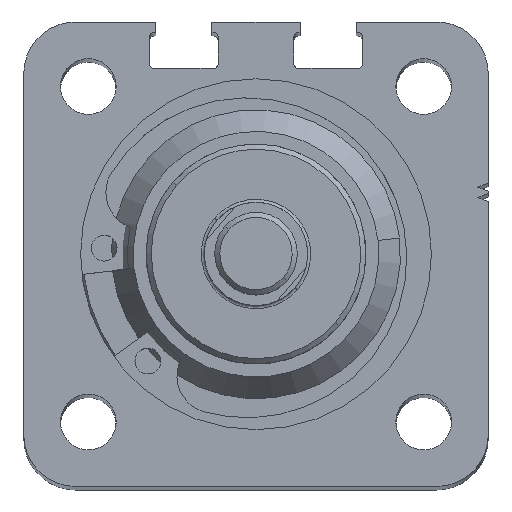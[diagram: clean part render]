
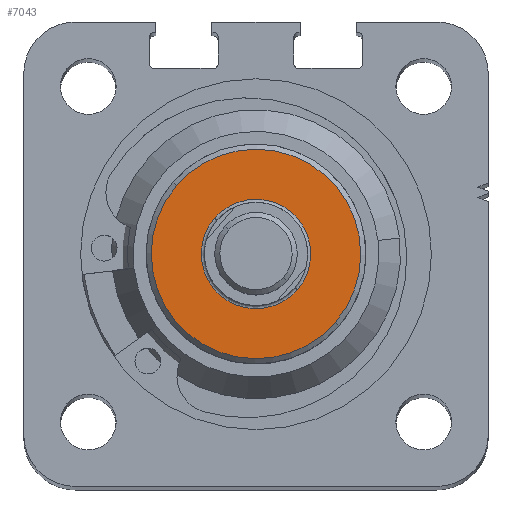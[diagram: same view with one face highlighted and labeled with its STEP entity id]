
A CAD part, top view. The second image highlights one B-rep face of the part: STEP entity #7043.
In plain terms, the highlighted planar face has unit normal (0, 0, 1).
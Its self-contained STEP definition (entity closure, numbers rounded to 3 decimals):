
#189 = DIRECTION ( 'NONE',  ( 0.758, -0.653, 0. ) ) ;
#250 = VERTEX_POINT ( 'NONE', #5513 ) ;
#530 = DIRECTION ( 'NONE',  ( 0., 0., -1. ) ) ;
#531 = VERTEX_POINT ( 'NONE', #10246 ) ;
#584 = CARTESIAN_POINT ( 'NONE',  ( 13.872, 4.985, 344.8 ) ) ;
#1251 = ORIENTED_EDGE ( 'NONE', *, *, #6174, .T. ) ;
#1284 = CIRCLE ( 'NONE', #6795, 5.3 ) ;
#1358 = CARTESIAN_POINT ( 'NONE',  ( 17.888, 1.527, 344.8 ) ) ;
#1609 = CARTESIAN_POINT ( 'NONE',  ( 17.888, 1.527, 344.8 ) ) ;
#2376 = DIRECTION ( 'NONE',  ( 0., 0., -1. ) ) ;
#2485 = FACE_BOUND ( 'NONE', #15981, .T. ) ;
#2706 = CIRCLE ( 'NONE', #10624, 5.3 ) ;
#2996 = CARTESIAN_POINT ( 'NONE',  ( 21.905, -1.931, 344.8 ) ) ;
#3023 = VERTEX_POINT ( 'NONE', #584 ) ;
#4371 = EDGE_LOOP ( 'NONE', ( #1251, #13799 ) ) ;
#5513 = CARTESIAN_POINT ( 'NONE',  ( 25.58, -5.096, 344.8 ) ) ;
#6007 = EDGE_CURVE ( 'NONE', #531, #250, #11215, .T. ) ;
#6078 = PLANE ( 'NONE',  #12863 ) ;
#6174 = EDGE_CURVE ( 'NONE', #250, #531, #17438, .T. ) ;
#6269 = AXIS2_PLACEMENT_3D ( 'NONE', #1609, #13798, #15347 ) ;
#6795 = AXIS2_PLACEMENT_3D ( 'NONE', #17437, #2376, #8452 ) ;
#6909 = EDGE_CURVE ( 'NONE', #3023, #8717, #1284, .T. ) ;
#7043 = ADVANCED_FACE ( 'NONE', ( #2485, #17633 ), #6078, .F. ) ;
#7290 = ORIENTED_EDGE ( 'NONE', *, *, #17364, .T. ) ;
#8452 = DIRECTION ( 'NONE',  ( 0.758, -0.653, 0. ) ) ;
#8717 = VERTEX_POINT ( 'NONE', #2996 ) ;
#9766 = CARTESIAN_POINT ( 'NONE',  ( 17.888, 1.527, 344.8 ) ) ;
#10246 = CARTESIAN_POINT ( 'NONE',  ( 10.197, 8.15, 344.8 ) ) ;
#10624 = AXIS2_PLACEMENT_3D ( 'NONE', #9766, #530, #15680 ) ;
#11215 = CIRCLE ( 'NONE', #6269, 10.15 ) ;
#11993 = DIRECTION ( 'NONE',  ( 0., 0., -1. ) ) ;
#12863 = AXIS2_PLACEMENT_3D ( 'NONE', #1358, #11993, #13616 ) ;
#13616 = DIRECTION ( 'NONE',  ( 0.758, -0.653, 0. ) ) ;
#13798 = DIRECTION ( 'NONE',  ( 0., 0., 1. ) ) ;
#13799 = ORIENTED_EDGE ( 'NONE', *, *, #6007, .T. ) ;
#15347 = DIRECTION ( 'NONE',  ( 0.758, -0.653, 0. ) ) ;
#15680 = DIRECTION ( 'NONE',  ( 0.758, -0.653, 0. ) ) ;
#15981 = EDGE_LOOP ( 'NONE', ( #7290, #18276 ) ) ;
#17261 = DIRECTION ( 'NONE',  ( 0., 0., 1. ) ) ;
#17324 = CARTESIAN_POINT ( 'NONE',  ( 17.888, 1.527, 344.8 ) ) ;
#17364 = EDGE_CURVE ( 'NONE', #8717, #3023, #2706, .T. ) ;
#17437 = CARTESIAN_POINT ( 'NONE',  ( 17.888, 1.527, 344.8 ) ) ;
#17438 = CIRCLE ( 'NONE', #17859, 10.15 ) ;
#17633 = FACE_OUTER_BOUND ( 'NONE', #4371, .T. ) ;
#17859 = AXIS2_PLACEMENT_3D ( 'NONE', #17324, #17261, #189 ) ;
#18276 = ORIENTED_EDGE ( 'NONE', *, *, #6909, .T. ) ;
